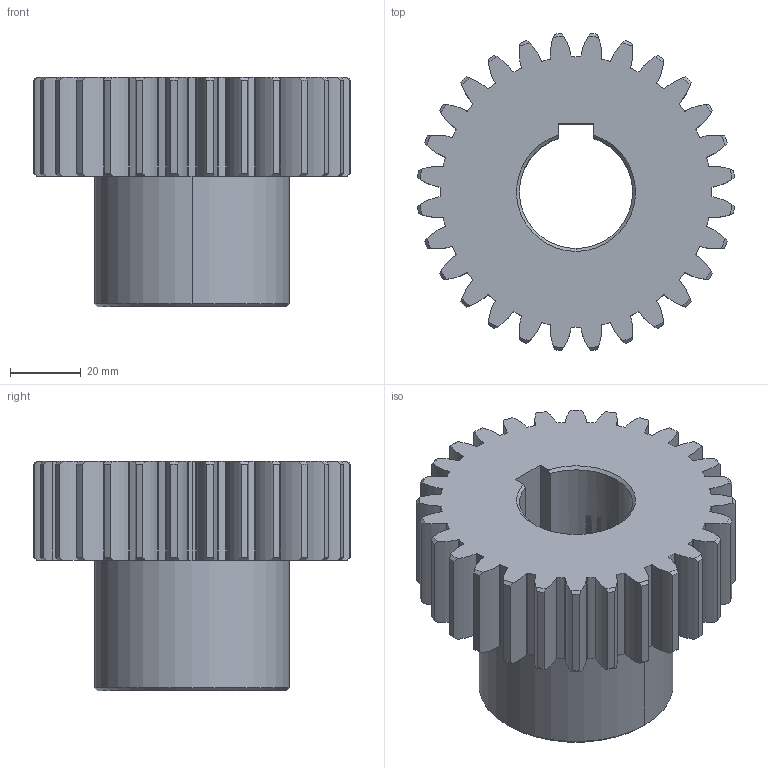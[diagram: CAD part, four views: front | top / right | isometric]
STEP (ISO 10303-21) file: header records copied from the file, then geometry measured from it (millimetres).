
FILE_DESCRIPTION (( 'STEP AP214' ), '1' );
FILE_NAME ('3M-28-32.step', '2021-12-10T01:34:56', ( 'IT Division' ), ( 'IT' ), 'SwSTEP 2.0', 'SolidWorks 2016', '' );
FILE_SCHEMA (( 'AUTOMOTIVE_DESIGN' ));
Length unit declared in the file: millimetre
Products named in the file (1): 3M-28-32
Bounding box: 89.64 x 89.64 x 65 mm (x, y, z)
Volume: 186319.6 mm3; surface area: 37297.1 mm2
Topology: 1 solids, 1 shells, 427 faces, 2572 edges, 2314 vertices
Faces by surface type: cylinder 360, cone 61, plane 6
Entity records: 32593 total; most frequent: CARTESIAN_POINT 14131, ORIENTED_EDGE 5144, DIRECTION 2692, EDGE_CURVE 2572, VERTEX_POINT 2314, AXIS2_PLACEMENT_3D 1078, B_SPLINE_CURVE_WITH_KNOTS 856, CIRCLE 650
